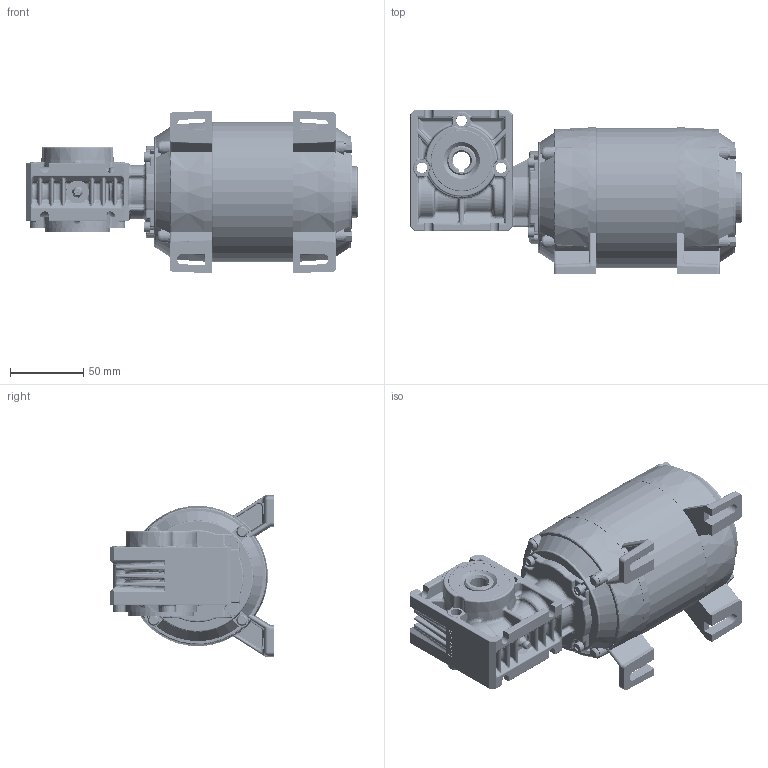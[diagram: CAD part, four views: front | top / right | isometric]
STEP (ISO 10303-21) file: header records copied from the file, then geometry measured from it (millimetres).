
FILE_DESCRIPTION (( 'STEP AP214' ), '1' );
FILE_NAME ('SD28-GB28.STEP', '2021-08-11T11:20:53', ( '' ), ( '' ), 'SwSTEP 2.0', 'SolidWorks 2020', '' );
FILE_SCHEMA (( 'AUTOMOTIVE_DESIGN' ));
Length unit declared in the file: millimetre
Products named in the file (1): SD28-GB28
Bounding box: 226.82 x 112.57 x 111.12 mm (x, y, z)
Surface area: 195320 mm2 (no closed solid volume)
Topology: 0 solids, 124 shells, 3269 faces, 12208 edges, 8950 vertices
Faces by surface type: plane 1267, cylinder 868, bspline 649, cone 211, torus 148, sphere 126
Entity records: 191000 total; most frequent: CARTESIAN_POINT 57070, DIRECTION 20155, ORIENTED_EDGE 19625, EDGE_CURVE 12078, VERTEX_POINT 8926, AXIS2_PLACEMENT_3D 7658, CIRCLE 5039, LINE 4839
